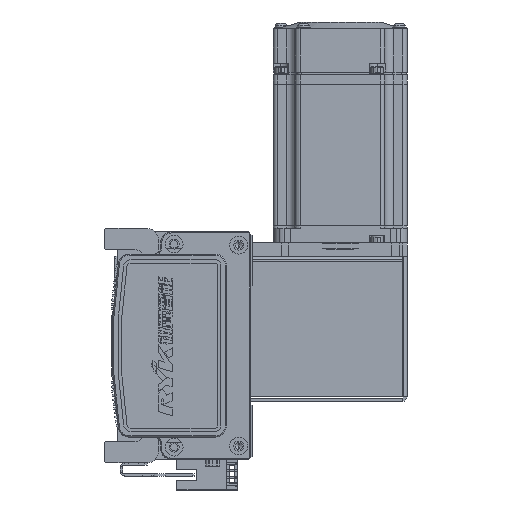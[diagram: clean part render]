
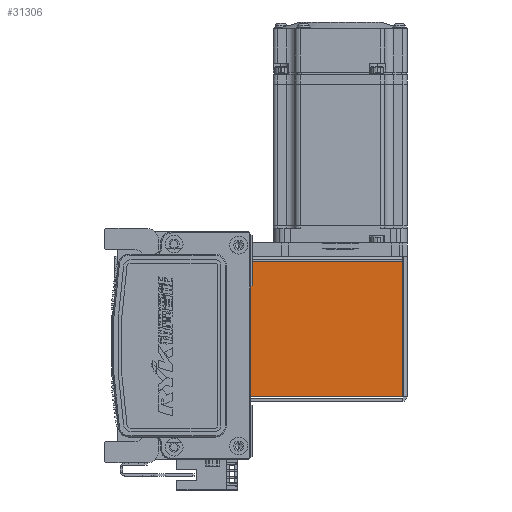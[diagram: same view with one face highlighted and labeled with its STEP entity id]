
A CAD part, left-side view. The second image highlights one B-rep face of the part: STEP entity #31306.
In plain terms, the highlighted planar face has unit normal (-1, 0, 0) as drawn and (0, 0, 1) by its records, which use the part's own axes.
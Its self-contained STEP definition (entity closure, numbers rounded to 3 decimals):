
#743 = EDGE_CURVE ( 'NONE', #64160, #63539, #26050, .T. ) ;
#2250 = ORIENTED_EDGE ( 'NONE', *, *, #17513, .T. ) ;
#4534 = ORIENTED_EDGE ( 'NONE', *, *, #17612, .T. ) ;
#5913 = ORIENTED_EDGE ( 'NONE', *, *, #23827, .F. ) ;
#6408 = VECTOR ( 'NONE', #22432, 1000. ) ;
#7663 = CARTESIAN_POINT ( 'NONE',  ( 30.263, 0.737, 35. ) ) ;
#10861 = PLANE ( 'NONE',  #19576 ) ;
#11642 = VECTOR ( 'NONE', #62167, 1000. ) ;
#16596 = CARTESIAN_POINT ( 'NONE',  ( 0., 72.5, 35. ) ) ;
#17513 = EDGE_CURVE ( 'NONE', #18827, #63539, #49155, .T. ) ;
#17612 = EDGE_CURVE ( 'NONE', #46584, #18827, #42124, .T. ) ;
#18827 = VERTEX_POINT ( 'NONE', #34847 ) ;
#19576 = AXIS2_PLACEMENT_3D ( 'NONE', #61576, #32754, #22570 ) ;
#22432 = DIRECTION ( 'NONE',  ( -1., 0., 0. ) ) ;
#22570 = DIRECTION ( 'NONE',  ( -1., 0., 0. ) ) ;
#23827 = EDGE_CURVE ( 'NONE', #46584, #64160, #62327, .T. ) ;
#24582 = CARTESIAN_POINT ( 'NONE',  ( -30.293, 0.737, 35. ) ) ;
#26050 = LINE ( 'NONE', #70204, #68916 ) ;
#26409 = EDGE_LOOP ( 'NONE', ( #4534, #2250, #57923, #5913 ) ) ;
#28900 = CARTESIAN_POINT ( 'NONE',  ( -32.5, 0.737, 35. ) ) ;
#31306 = ADVANCED_FACE ( 'NONE', ( #39512 ), #10861, .F. ) ;
#32754 = DIRECTION ( 'NONE',  ( 0., 0., -1. ) ) ;
#34847 = CARTESIAN_POINT ( 'NONE',  ( 30.263, 72.5, 35. ) ) ;
#36201 = DIRECTION ( 'NONE',  ( 0., 1., 0. ) ) ;
#38689 = VECTOR ( 'NONE', #68022, 1000. ) ;
#39512 = FACE_OUTER_BOUND ( 'NONE', #26409, .T. ) ;
#42124 = LINE ( 'NONE', #50692, #11642 ) ;
#46584 = VERTEX_POINT ( 'NONE', #7663 ) ;
#48386 = CARTESIAN_POINT ( 'NONE',  ( -30.293, 72.5, 35. ) ) ;
#49155 = LINE ( 'NONE', #16596, #6408 ) ;
#50692 = CARTESIAN_POINT ( 'NONE',  ( 30.263, 0.737, 35. ) ) ;
#57923 = ORIENTED_EDGE ( 'NONE', *, *, #743, .F. ) ;
#61576 = CARTESIAN_POINT ( 'NONE',  ( 0., 0., 35. ) ) ;
#62167 = DIRECTION ( 'NONE',  ( 0., 1., 0. ) ) ;
#62327 = LINE ( 'NONE', #28900, #38689 ) ;
#63539 = VERTEX_POINT ( 'NONE', #48386 ) ;
#64160 = VERTEX_POINT ( 'NONE', #24582 ) ;
#68022 = DIRECTION ( 'NONE',  ( -1., 0., 0. ) ) ;
#68916 = VECTOR ( 'NONE', #36201, 1000. ) ;
#70204 = CARTESIAN_POINT ( 'NONE',  ( -30.293, 0., 35. ) ) ;
